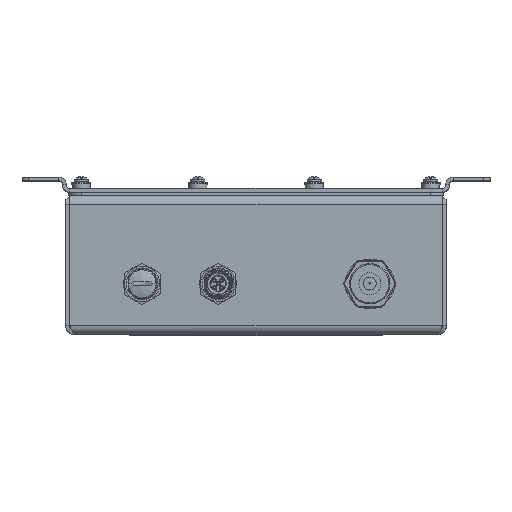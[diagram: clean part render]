
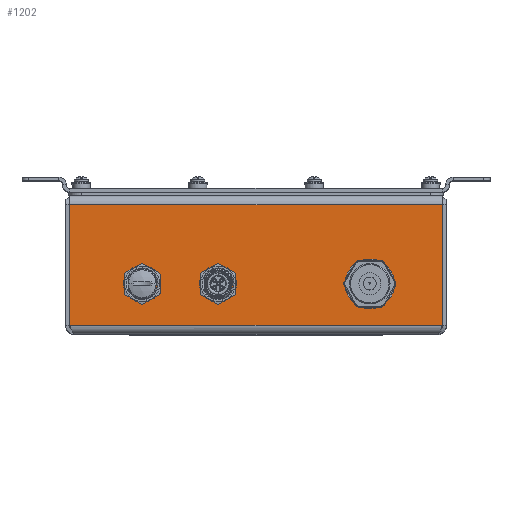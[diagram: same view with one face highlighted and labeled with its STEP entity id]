
A CAD part, top view. The second image highlights one B-rep face of the part: STEP entity #1202.
In plain terms, the highlighted planar face has unit normal (0, 0, 1).
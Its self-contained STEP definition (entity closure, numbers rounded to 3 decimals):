
#175 = CIRCLE ( 'NONE', #684, 0.301 ) ;
#684 = AXIS2_PLACEMENT_3D ( 'NONE', #8648, #29418, #25735 ) ;
#700 = VERTEX_POINT ( 'NONE', #13406 ) ;
#736 = ORIENTED_EDGE ( 'NONE', *, *, #14735, .F. ) ;
#1038 = VERTEX_POINT ( 'NONE', #14086 ) ;
#1202 = ADVANCED_FACE ( 'NONE', ( #10851, #37638, #35436, #3236 ), #31070, .F. ) ;
#1235 = DIRECTION ( 'NONE',  ( 0., 1., 0. ) ) ;
#1343 = VERTEX_POINT ( 'NONE', #17729 ) ;
#1717 = VERTEX_POINT ( 'NONE', #5688 ) ;
#1881 = CARTESIAN_POINT ( 'NONE',  ( -1.017, 0.862, 2.563 ) ) ;
#2019 = ORIENTED_EDGE ( 'NONE', *, *, #21105, .F. ) ;
#2156 = LINE ( 'NONE', #35595, #32768 ) ;
#2812 = DIRECTION ( 'NONE',  ( -1., 0., 0. ) ) ;
#3005 = ORIENTED_EDGE ( 'NONE', *, *, #23768, .F. ) ;
#3236 = FACE_OUTER_BOUND ( 'NONE', #7751, .T. ) ;
#3638 = EDGE_CURVE ( 'NONE', #20264, #1343, #36409, .T. ) ;
#4360 = CARTESIAN_POINT ( 'NONE',  ( -0.482, 1.138, 2.562 ) ) ;
#4367 = EDGE_CURVE ( 'NONE', #1717, #4885, #9026, .T. ) ;
#4593 = CARTESIAN_POINT ( 'NONE',  ( 3.681, 0.182, 2.562 ) ) ;
#4885 = VERTEX_POINT ( 'NONE', #20281 ) ;
#5688 = CARTESIAN_POINT ( 'NONE',  ( 3.681, 2.568, 2.563 ) ) ;
#6027 = VERTEX_POINT ( 'NONE', #13548 ) ;
#6835 = DIRECTION ( 'NONE',  ( 0., 0., 1. ) ) ;
#7224 = CARTESIAN_POINT ( 'NONE',  ( 3.681, 2.568, 2.563 ) ) ;
#7522 = CARTESIAN_POINT ( 'NONE',  ( -1.982, 1.138, 2.562 ) ) ;
#7555 = ORIENTED_EDGE ( 'NONE', *, *, #29685, .F. ) ;
#7701 = CARTESIAN_POINT ( 'NONE',  ( 2.555, 1., 2.562 ) ) ;
#7751 = EDGE_LOOP ( 'NONE', ( #26827, #27829, #7555, #22612 ) ) ;
#7874 = LINE ( 'NONE', #36994, #25350 ) ;
#8648 = CARTESIAN_POINT ( 'NONE',  ( -2.25, 1., 2.562 ) ) ;
#8787 = ORIENTED_EDGE ( 'NONE', *, *, #3638, .F. ) ;
#8883 = DIRECTION ( 'NONE',  ( 1., 0., 0. ) ) ;
#9026 = LINE ( 'NONE', #7224, #43991 ) ;
#10030 = CIRCLE ( 'NONE', #36016, 0.301 ) ;
#10851 = FACE_BOUND ( 'NONE', #41148, .T. ) ;
#11273 = VECTOR ( 'NONE', #42479, 39.37 ) ;
#11414 = EDGE_LOOP ( 'NONE', ( #8787, #31666, #736, #29227 ) ) ;
#11448 = VECTOR ( 'NONE', #13635, 39.37 ) ;
#11918 = DIRECTION ( 'NONE',  ( 0., 1., 0. ) ) ;
#12492 = DIRECTION ( 'NONE',  ( 0., 0., 1. ) ) ;
#12537 = LINE ( 'NONE', #27711, #11448 ) ;
#12570 = CARTESIAN_POINT ( 'NONE',  ( -0.75, 1., 2.562 ) ) ;
#13406 = CARTESIAN_POINT ( 'NONE',  ( -3.681, 0.182, 2.562 ) ) ;
#13548 = CARTESIAN_POINT ( 'NONE',  ( -1.982, 1.138, 2.562 ) ) ;
#13635 = DIRECTION ( 'NONE',  ( 0., -1., 0. ) ) ;
#13671 = AXIS2_PLACEMENT_3D ( 'NONE', #20326, #24318, #23711 ) ;
#14086 = CARTESIAN_POINT ( 'NONE',  ( -0.483, 0.862, 2.562 ) ) ;
#14735 = EDGE_CURVE ( 'NONE', #15620, #1038, #10030, .T. ) ;
#15057 = EDGE_CURVE ( 'NONE', #44800, #6027, #25303, .T. ) ;
#15620 = VERTEX_POINT ( 'NONE', #1881 ) ;
#15942 = VECTOR ( 'NONE', #37858, 39.37 ) ;
#16125 = CARTESIAN_POINT ( 'NONE',  ( -0.483, 1.138, 2.562 ) ) ;
#17268 = LINE ( 'NONE', #16125, #43489 ) ;
#17536 = AXIS2_PLACEMENT_3D ( 'NONE', #24619, #35459, #21234 ) ;
#17729 = CARTESIAN_POINT ( 'NONE',  ( -1.017, 1.138, 2.562 ) ) ;
#18586 = EDGE_CURVE ( 'NONE', #700, #4885, #2156, .T. ) ;
#19213 = LINE ( 'NONE', #41536, #15942 ) ;
#19219 = ORIENTED_EDGE ( 'NONE', *, *, #30102, .F. ) ;
#19555 = CARTESIAN_POINT ( 'NONE',  ( 2.25, 1., 2.562 ) ) ;
#20264 = VERTEX_POINT ( 'NONE', #4360 ) ;
#20281 = CARTESIAN_POINT ( 'NONE',  ( -3.681, 2.568, 2.563 ) ) ;
#20326 = CARTESIAN_POINT ( 'NONE',  ( 0., 0., 2.562 ) ) ;
#20902 = VECTOR ( 'NONE', #11918, 39.37 ) ;
#21105 = EDGE_CURVE ( 'NONE', #33344, #44831, #37127, .T. ) ;
#21234 = DIRECTION ( 'NONE',  ( 1., 0., 0. ) ) ;
#22567 = DIRECTION ( 'NONE',  ( 1., 0., 0. ) ) ;
#22612 = ORIENTED_EDGE ( 'NONE', *, *, #32828, .T. ) ;
#22852 = DIRECTION ( 'NONE',  ( 0., 1., 0. ) ) ;
#23711 = DIRECTION ( 'NONE',  ( 0., 1., 0. ) ) ;
#23768 = EDGE_CURVE ( 'NONE', #6027, #27648, #175, .T. ) ;
#24318 = DIRECTION ( 'NONE',  ( 0., 0., -1. ) ) ;
#24524 = DIRECTION ( 'NONE',  ( 1., 0., 0. ) ) ;
#24619 = CARTESIAN_POINT ( 'NONE',  ( -2.25, 1., 2.562 ) ) ;
#25261 = VERTEX_POINT ( 'NONE', #4593 ) ;
#25303 = LINE ( 'NONE', #7522, #20902 ) ;
#25350 = VECTOR ( 'NONE', #2812, 39.37 ) ;
#25735 = DIRECTION ( 'NONE',  ( 1., 0., 0. ) ) ;
#25744 = CARTESIAN_POINT ( 'NONE',  ( -2.517, 1.138, 2.562 ) ) ;
#26022 = LINE ( 'NONE', #28737, #11273 ) ;
#26827 = ORIENTED_EDGE ( 'NONE', *, *, #4367, .T. ) ;
#27346 = EDGE_CURVE ( 'NONE', #44831, #33344, #30005, .T. ) ;
#27508 = AXIS2_PLACEMENT_3D ( 'NONE', #19555, #33316, #36978 ) ;
#27648 = VERTEX_POINT ( 'NONE', #25744 ) ;
#27711 = CARTESIAN_POINT ( 'NONE',  ( -2.517, 0.862, 2.562 ) ) ;
#27759 = CARTESIAN_POINT ( 'NONE',  ( -0.75, 1., 2.562 ) ) ;
#27829 = ORIENTED_EDGE ( 'NONE', *, *, #18586, .F. ) ;
#27854 = DIRECTION ( 'NONE',  ( -1., 0., 0. ) ) ;
#28393 = CARTESIAN_POINT ( 'NONE',  ( 1.945, 1., 2.562 ) ) ;
#28737 = CARTESIAN_POINT ( 'NONE',  ( -1.017, 0.862, 2.562 ) ) ;
#29227 = ORIENTED_EDGE ( 'NONE', *, *, #44604, .F. ) ;
#29418 = DIRECTION ( 'NONE',  ( 0., 0., 1. ) ) ;
#29685 = EDGE_CURVE ( 'NONE', #25261, #700, #7874, .T. ) ;
#30005 = CIRCLE ( 'NONE', #40551, 0.305 ) ;
#30102 = EDGE_CURVE ( 'NONE', #30719, #44800, #34609, .T. ) ;
#30719 = VERTEX_POINT ( 'NONE', #39060 ) ;
#31070 = PLANE ( 'NONE',  #13671 ) ;
#31666 = ORIENTED_EDGE ( 'NONE', *, *, #45015, .F. ) ;
#32768 = VECTOR ( 'NONE', #1235, 39.37 ) ;
#32828 = EDGE_CURVE ( 'NONE', #25261, #1717, #19213, .T. ) ;
#33284 = AXIS2_PLACEMENT_3D ( 'NONE', #27759, #6835, #24524 ) ;
#33316 = DIRECTION ( 'NONE',  ( 0., 0., 1. ) ) ;
#33344 = VERTEX_POINT ( 'NONE', #7701 ) ;
#33412 = CARTESIAN_POINT ( 'NONE',  ( 2.25, 1., 2.562 ) ) ;
#34609 = CIRCLE ( 'NONE', #17536, 0.301 ) ;
#35436 = FACE_BOUND ( 'NONE', #41301, .T. ) ;
#35459 = DIRECTION ( 'NONE',  ( 0., 0., 1. ) ) ;
#35595 = CARTESIAN_POINT ( 'NONE',  ( -3.681, -7.692, 2.562 ) ) ;
#36016 = AXIS2_PLACEMENT_3D ( 'NONE', #12570, #37017, #8883 ) ;
#36409 = CIRCLE ( 'NONE', #33284, 0.301 ) ;
#36978 = DIRECTION ( 'NONE',  ( 1., 0., 0. ) ) ;
#36994 = CARTESIAN_POINT ( 'NONE',  ( -3.763, 0.182, 2.562 ) ) ;
#37017 = DIRECTION ( 'NONE',  ( 0., 0., 1. ) ) ;
#37127 = CIRCLE ( 'NONE', #27508, 0.305 ) ;
#37638 = FACE_BOUND ( 'NONE', #11414, .T. ) ;
#37670 = ORIENTED_EDGE ( 'NONE', *, *, #37684, .F. ) ;
#37684 = EDGE_CURVE ( 'NONE', #27648, #30719, #12537, .T. ) ;
#37858 = DIRECTION ( 'NONE',  ( 0., 1., 0. ) ) ;
#39060 = CARTESIAN_POINT ( 'NONE',  ( -2.517, 0.862, 2.563 ) ) ;
#40551 = AXIS2_PLACEMENT_3D ( 'NONE', #33412, #12492, #22567 ) ;
#41148 = EDGE_LOOP ( 'NONE', ( #2019, #45183 ) ) ;
#41301 = EDGE_LOOP ( 'NONE', ( #3005, #43156, #19219, #37670 ) ) ;
#41536 = CARTESIAN_POINT ( 'NONE',  ( 3.681, -7.77, 2.562 ) ) ;
#42273 = CARTESIAN_POINT ( 'NONE',  ( -1.982, 0.862, 2.562 ) ) ;
#42479 = DIRECTION ( 'NONE',  ( 0., -1., 0. ) ) ;
#43156 = ORIENTED_EDGE ( 'NONE', *, *, #15057, .F. ) ;
#43489 = VECTOR ( 'NONE', #22852, 39.37 ) ;
#43991 = VECTOR ( 'NONE', #27854, 39.37 ) ;
#44604 = EDGE_CURVE ( 'NONE', #1343, #15620, #26022, .T. ) ;
#44800 = VERTEX_POINT ( 'NONE', #42273 ) ;
#44831 = VERTEX_POINT ( 'NONE', #28393 ) ;
#45015 = EDGE_CURVE ( 'NONE', #1038, #20264, #17268, .T. ) ;
#45183 = ORIENTED_EDGE ( 'NONE', *, *, #27346, .F. ) ;
